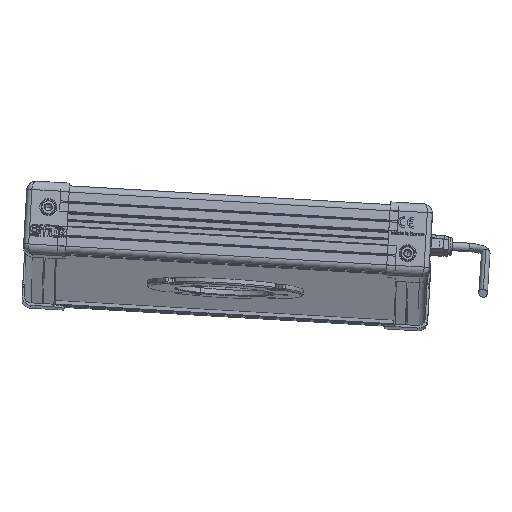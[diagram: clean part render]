
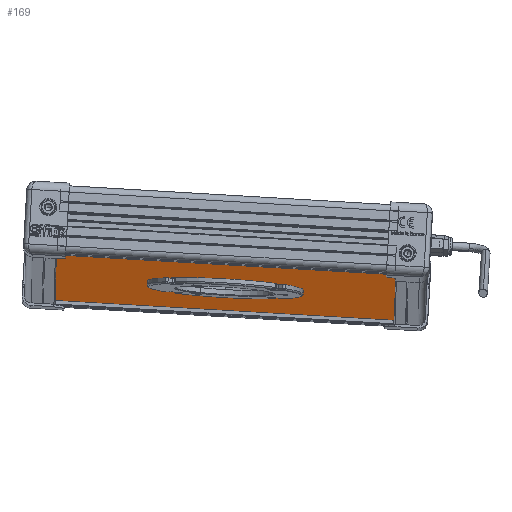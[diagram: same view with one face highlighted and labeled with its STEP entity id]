
A CAD part, front view. The second image highlights one B-rep face of the part: STEP entity #169.
In plain terms, the highlighted planar face has unit normal (-0.058, -0.084, -0.995) as drawn and (0, 0, 1) by its records, which use the part's own axes.
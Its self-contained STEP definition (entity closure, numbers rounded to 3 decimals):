
#169 = ADVANCED_FACE ( 'NONE', ( #28125, #15886, #56777, #5790, #27416, #38996 ), #186, .T. ) ;
#186 = PLANE ( 'NONE',  #51797 ) ;
#506 = CARTESIAN_POINT ( 'NONE',  ( 9., 199.5, 0. ) ) ;
#917 = CARTESIAN_POINT ( 'NONE',  ( 155.6, 129.55, 0. ) ) ;
#1133 = CARTESIAN_POINT ( 'NONE',  ( 214.7, 99.5, 0. ) ) ;
#1428 = CIRCLE ( 'NONE', #12148, 1.65 ) ;
#1443 = VERTEX_POINT ( 'NONE', #60196 ) ;
#2116 = CARTESIAN_POINT ( 'NONE',  ( 215.7, 69.45, 0. ) ) ;
#2281 = DIRECTION ( 'NONE',  ( 0., 0., -1. ) ) ;
#2706 = CARTESIAN_POINT ( 'NONE',  ( 9., 199.5, 0. ) ) ;
#3374 = EDGE_CURVE ( 'NONE', #34619, #27318, #21191, .T. ) ;
#3860 = AXIS2_PLACEMENT_3D ( 'NONE', #26793, #64530, #13907 ) ;
#4994 = LINE ( 'NONE', #60877, #56332 ) ;
#5061 = CARTESIAN_POINT ( 'NONE',  ( 0., 0., 0. ) ) ;
#5204 = CARTESIAN_POINT ( 'NONE',  ( 212.4, 129.55, 0. ) ) ;
#5561 = AXIS2_PLACEMENT_3D ( 'NONE', #36211, #2281, #71135 ) ;
#5790 = FACE_BOUND ( 'NONE', #45360, .T. ) ;
#6563 = AXIS2_PLACEMENT_3D ( 'NONE', #19988, #67931, #61304 ) ;
#6669 = EDGE_CURVE ( 'NONE', #27318, #34619, #28236, .T. ) ;
#9144 = EDGE_LOOP ( 'NONE', ( #41557, #18720 ) ) ;
#9710 = DIRECTION ( 'NONE',  ( 1., 0., 0. ) ) ;
#10647 = ORIENTED_EDGE ( 'NONE', *, *, #29138, .T. ) ;
#11025 = DIRECTION ( 'NONE',  ( 0., 0., 1. ) ) ;
#12148 = AXIS2_PLACEMENT_3D ( 'NONE', #52806, #12988, #57614 ) ;
#12646 = DIRECTION ( 'NONE',  ( 0., 1., 0. ) ) ;
#12902 = AXIS2_PLACEMENT_3D ( 'NONE', #55331, #72039, #43832 ) ;
#12988 = DIRECTION ( 'NONE',  ( 0., 0., 1. ) ) ;
#13031 = CARTESIAN_POINT ( 'NONE',  ( 359., 199.5, 0. ) ) ;
#13215 = VERTEX_POINT ( 'NONE', #37507 ) ;
#13907 = DIRECTION ( 'NONE',  ( 1., 0., 0. ) ) ;
#14631 = CIRCLE ( 'NONE', #51463, 1.65 ) ;
#15802 = CIRCLE ( 'NONE', #3860, 1.65 ) ;
#15886 = FACE_BOUND ( 'NONE', #41625, .T. ) ;
#16245 = DIRECTION ( 'NONE',  ( 1., 0., 0. ) ) ;
#16770 = CARTESIAN_POINT ( 'NONE',  ( 359., 199.5, 0. ) ) ;
#18006 = DIRECTION ( 'NONE',  ( 1., 0., 0. ) ) ;
#18327 = EDGE_CURVE ( 'NONE', #23474, #48096, #49758, .T. ) ;
#18720 = ORIENTED_EDGE ( 'NONE', *, *, #38909, .T. ) ;
#19988 = CARTESIAN_POINT ( 'NONE',  ( 184., 99.5, 0. ) ) ;
#20236 = ORIENTED_EDGE ( 'NONE', *, *, #31777, .F. ) ;
#20903 = DIRECTION ( 'NONE',  ( 0., 0., 1. ) ) ;
#21191 = CIRCLE ( 'NONE', #12902, 1.65 ) ;
#21565 = ORIENTED_EDGE ( 'NONE', *, *, #62756, .F. ) ;
#23232 = AXIS2_PLACEMENT_3D ( 'NONE', #24306, #40730, #53336 ) ;
#23474 = VERTEX_POINT ( 'NONE', #2116 ) ;
#24008 = CARTESIAN_POINT ( 'NONE',  ( 9., -0.5, 0. ) ) ;
#24306 = CARTESIAN_POINT ( 'NONE',  ( 153.95, 69.45, 0. ) ) ;
#25134 = ORIENTED_EDGE ( 'NONE', *, *, #59243, .F. ) ;
#25626 = EDGE_CURVE ( 'NONE', #52964, #54686, #1428, .T. ) ;
#26083 = VECTOR ( 'NONE', #45637, 1000. ) ;
#26403 = CARTESIAN_POINT ( 'NONE',  ( 153.3, 99.5, 0. ) ) ;
#26793 = CARTESIAN_POINT ( 'NONE',  ( 153.95, 69.45, 0. ) ) ;
#27318 = VERTEX_POINT ( 'NONE', #49890 ) ;
#27416 = FACE_BOUND ( 'NONE', #9144, .T. ) ;
#27571 = EDGE_LOOP ( 'NONE', ( #38596, #59648 ) ) ;
#28125 = FACE_BOUND ( 'NONE', #27571, .T. ) ;
#28236 = CIRCLE ( 'NONE', #56756, 1.65 ) ;
#29076 = EDGE_CURVE ( 'NONE', #59630, #37063, #37481, .T. ) ;
#29138 = EDGE_CURVE ( 'NONE', #36371, #1443, #38241, .T. ) ;
#30198 = EDGE_LOOP ( 'NONE', ( #73400, #10647, #37228, #35450 ) ) ;
#31584 = EDGE_CURVE ( 'NONE', #54686, #52964, #14631, .T. ) ;
#31777 = EDGE_CURVE ( 'NONE', #13215, #43944, #15802, .T. ) ;
#32655 = EDGE_CURVE ( 'NONE', #68105, #36371, #4994, .T. ) ;
#34472 = DIRECTION ( 'NONE',  ( 1., 0., 0. ) ) ;
#34515 = CARTESIAN_POINT ( 'NONE',  ( 152.3, 129.55, 0. ) ) ;
#34619 = VERTEX_POINT ( 'NONE', #5204 ) ;
#35450 = ORIENTED_EDGE ( 'NONE', *, *, #70466, .T. ) ;
#35529 = DIRECTION ( 'NONE',  ( 1., 0., 0. ) ) ;
#36211 = CARTESIAN_POINT ( 'NONE',  ( 184., 99.5, 0. ) ) ;
#36371 = VERTEX_POINT ( 'NONE', #24008 ) ;
#37063 = VERTEX_POINT ( 'NONE', #1133 ) ;
#37228 = ORIENTED_EDGE ( 'NONE', *, *, #38083, .T. ) ;
#37340 = ORIENTED_EDGE ( 'NONE', *, *, #6669, .F. ) ;
#37481 = CIRCLE ( 'NONE', #6563, 30.7 ) ;
#37507 = CARTESIAN_POINT ( 'NONE',  ( 152.3, 69.45, 0. ) ) ;
#38029 = CARTESIAN_POINT ( 'NONE',  ( 214.05, 69.45, 0. ) ) ;
#38083 = EDGE_CURVE ( 'NONE', #1443, #46831, #46186, .T. ) ;
#38241 = LINE ( 'NONE', #45304, #65969 ) ;
#38596 = ORIENTED_EDGE ( 'NONE', *, *, #31584, .F. ) ;
#38909 = EDGE_CURVE ( 'NONE', #37063, #59630, #44833, .T. ) ;
#38996 = FACE_OUTER_BOUND ( 'NONE', #30198, .T. ) ;
#39668 = DIRECTION ( 'NONE',  ( 0., 0., 1. ) ) ;
#40730 = DIRECTION ( 'NONE',  ( 0., 0., 1. ) ) ;
#40783 = CARTESIAN_POINT ( 'NONE',  ( 214.05, 129.55, 0. ) ) ;
#41557 = ORIENTED_EDGE ( 'NONE', *, *, #29076, .T. ) ;
#41625 = EDGE_LOOP ( 'NONE', ( #21565, #20236 ) ) ;
#42133 = AXIS2_PLACEMENT_3D ( 'NONE', #71869, #20903, #44046 ) ;
#43832 = DIRECTION ( 'NONE',  ( 1., 0., 0. ) ) ;
#43944 = VERTEX_POINT ( 'NONE', #47950 ) ;
#44046 = DIRECTION ( 'NONE',  ( 1., 0., 0. ) ) ;
#44833 = CIRCLE ( 'NONE', #5561, 30.7 ) ;
#45304 = CARTESIAN_POINT ( 'NONE',  ( 9., -0.5, 0. ) ) ;
#45360 = EDGE_LOOP ( 'NONE', ( #37340, #56599 ) ) ;
#45637 = DIRECTION ( 'NONE',  ( -1., 0., 0. ) ) ;
#46186 = LINE ( 'NONE', #16770, #64948 ) ;
#46333 = CARTESIAN_POINT ( 'NONE',  ( 153.95, 129.55, 0. ) ) ;
#46831 = VERTEX_POINT ( 'NONE', #13031 ) ;
#47950 = CARTESIAN_POINT ( 'NONE',  ( 155.6, 69.45, 0. ) ) ;
#48096 = VERTEX_POINT ( 'NONE', #69848 ) ;
#49758 = CIRCLE ( 'NONE', #62798, 1.65 ) ;
#49890 = CARTESIAN_POINT ( 'NONE',  ( 215.7, 129.55, 0. ) ) ;
#51463 = AXIS2_PLACEMENT_3D ( 'NONE', #46333, #51884, #18006 ) ;
#51797 = AXIS2_PLACEMENT_3D ( 'NONE', #5061, #11025, #34472 ) ;
#51884 = DIRECTION ( 'NONE',  ( 0., 0., 1. ) ) ;
#52784 = CIRCLE ( 'NONE', #42133, 1.65 ) ;
#52806 = CARTESIAN_POINT ( 'NONE',  ( 153.95, 129.55, 0. ) ) ;
#52964 = VERTEX_POINT ( 'NONE', #34515 ) ;
#53336 = DIRECTION ( 'NONE',  ( 1., 0., 0. ) ) ;
#54686 = VERTEX_POINT ( 'NONE', #917 ) ;
#55331 = CARTESIAN_POINT ( 'NONE',  ( 214.05, 129.55, 0. ) ) ;
#56332 = VECTOR ( 'NONE', #62318, 1000. ) ;
#56599 = ORIENTED_EDGE ( 'NONE', *, *, #3374, .F. ) ;
#56756 = AXIS2_PLACEMENT_3D ( 'NONE', #40783, #39668, #35529 ) ;
#56777 = FACE_BOUND ( 'NONE', #70763, .T. ) ;
#57614 = DIRECTION ( 'NONE',  ( 1., 0., 0. ) ) ;
#59243 = EDGE_CURVE ( 'NONE', #48096, #23474, #52784, .T. ) ;
#59630 = VERTEX_POINT ( 'NONE', #26403 ) ;
#59648 = ORIENTED_EDGE ( 'NONE', *, *, #25626, .F. ) ;
#60196 = CARTESIAN_POINT ( 'NONE',  ( 359., -0.5, 0. ) ) ;
#60877 = CARTESIAN_POINT ( 'NONE',  ( 9., 199.5, 0. ) ) ;
#61304 = DIRECTION ( 'NONE',  ( -1., 0., 0. ) ) ;
#61659 = ORIENTED_EDGE ( 'NONE', *, *, #18327, .F. ) ;
#61813 = DIRECTION ( 'NONE',  ( 0., 0., 1. ) ) ;
#62318 = DIRECTION ( 'NONE',  ( 0., -1., 0. ) ) ;
#62756 = EDGE_CURVE ( 'NONE', #43944, #13215, #64871, .T. ) ;
#62798 = AXIS2_PLACEMENT_3D ( 'NONE', #38029, #61813, #9710 ) ;
#63459 = LINE ( 'NONE', #506, #26083 ) ;
#64530 = DIRECTION ( 'NONE',  ( 0., 0., 1. ) ) ;
#64871 = CIRCLE ( 'NONE', #23232, 1.65 ) ;
#64948 = VECTOR ( 'NONE', #12646, 1000. ) ;
#65969 = VECTOR ( 'NONE', #16245, 1000. ) ;
#67931 = DIRECTION ( 'NONE',  ( 0., 0., -1. ) ) ;
#68105 = VERTEX_POINT ( 'NONE', #2706 ) ;
#69848 = CARTESIAN_POINT ( 'NONE',  ( 212.4, 69.45, 0. ) ) ;
#70466 = EDGE_CURVE ( 'NONE', #46831, #68105, #63459, .T. ) ;
#70763 = EDGE_LOOP ( 'NONE', ( #61659, #25134 ) ) ;
#71135 = DIRECTION ( 'NONE',  ( -1., 0., 0. ) ) ;
#71869 = CARTESIAN_POINT ( 'NONE',  ( 214.05, 69.45, 0. ) ) ;
#72039 = DIRECTION ( 'NONE',  ( 0., 0., 1. ) ) ;
#73400 = ORIENTED_EDGE ( 'NONE', *, *, #32655, .T. ) ;
